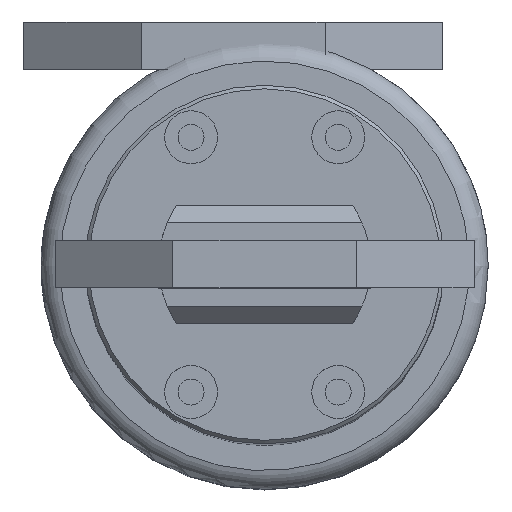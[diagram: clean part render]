
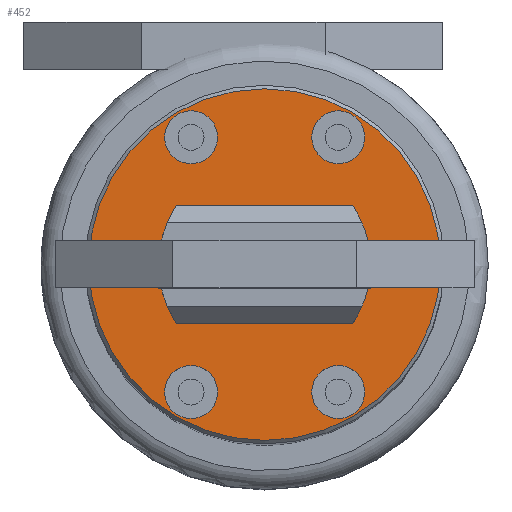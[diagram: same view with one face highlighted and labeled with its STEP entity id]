
A CAD part, top view. The second image highlights one B-rep face of the part: STEP entity #452.
In plain terms, the highlighted planar face has unit normal (0, 0, 1).
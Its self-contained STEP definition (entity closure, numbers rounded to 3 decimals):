
#452 = ADVANCED_FACE( '', ( #1231, #1232, #1233, #1234, #1235, #1236 ), #1237, .F. );
#1231 = FACE_OUTER_BOUND( '', #2437, .T. );
#1232 = FACE_BOUND( '', #2438, .T. );
#1233 = FACE_BOUND( '', #2439, .T. );
#1234 = FACE_BOUND( '', #2440, .T. );
#1235 = FACE_BOUND( '', #2441, .T. );
#1236 = FACE_BOUND( '', #2442, .T. );
#1237 = PLANE( '', #2443 );
#2437 = EDGE_LOOP( '', ( #4892 ) );
#2438 = EDGE_LOOP( '', ( #4893 ) );
#2439 = EDGE_LOOP( '', ( #4894 ) );
#2440 = EDGE_LOOP( '', ( #4895 ) );
#2441 = EDGE_LOOP( '', ( #4896 ) );
#2442 = EDGE_LOOP( '', ( #4897 ) );
#2443 = AXIS2_PLACEMENT_3D( '', #4898, #4899, #4900 );
#4892 = ORIENTED_EDGE( '', *, *, #6154, .T. );
#4893 = ORIENTED_EDGE( '', *, *, #6155, .F. );
#4894 = ORIENTED_EDGE( '', *, *, #6126, .F. );
#4895 = ORIENTED_EDGE( '', *, *, #6129, .F. );
#4896 = ORIENTED_EDGE( '', *, *, #5838, .F. );
#4897 = ORIENTED_EDGE( '', *, *, #6101, .F. );
#4898 = CARTESIAN_POINT( '', ( 20.469, -16.722, 86.008 ) );
#4899 = DIRECTION( '', ( 0., 0., -1. ) );
#4900 = DIRECTION( '', ( 0., 1., 0. ) );
#5838 = EDGE_CURVE( '', #6985, #6985, #6986, .T. );
#6101 = EDGE_CURVE( '', #7418, #7418, #7419, .T. );
#6126 = EDGE_CURVE( '', #7458, #7458, #7459, .T. );
#6129 = EDGE_CURVE( '', #7464, #7464, #7465, .T. );
#6154 = EDGE_CURVE( '', #7500, #7500, #7501, .T. );
#6155 = EDGE_CURVE( '', #7502, #7502, #7503, .T. );
#6985 = VERTEX_POINT( '', #9288 );
#6986 = CIRCLE( '', #9289, 2.25 );
#7418 = VERTEX_POINT( '', #10479 );
#7419 = CIRCLE( '', #10480, 2.25 );
#7458 = VERTEX_POINT( '', #10535 );
#7459 = CIRCLE( '', #10536, 2.25 );
#7464 = VERTEX_POINT( '', #10541 );
#7465 = CIRCLE( '', #10542, 2.25 );
#7500 = VERTEX_POINT( '', #10588 );
#7501 = CIRCLE( '', #10589, 14.94 );
#7502 = VERTEX_POINT( '', #10590 );
#7503 = CIRCLE( '', #10591, 5. );
#9288 = CARTESIAN_POINT( '', ( 24.469, -27.547, 86.008 ) );
#9289 = AXIS2_PLACEMENT_3D( '', #11240, #11241, #11242 );
#10479 = CARTESIAN_POINT( '', ( 11.969, -27.547, 86.008 ) );
#10480 = AXIS2_PLACEMENT_3D( '', #11618, #11619, #11620 );
#10535 = CARTESIAN_POINT( '', ( 16.469, -5.897, 86.008 ) );
#10536 = AXIS2_PLACEMENT_3D( '', #11661, #11662, #11663 );
#10541 = CARTESIAN_POINT( '', ( 28.969, -5.897, 86.008 ) );
#10542 = AXIS2_PLACEMENT_3D( '', #11670, #11671, #11672 );
#10588 = CARTESIAN_POINT( '', ( 35.409, -16.722, 86.008 ) );
#10589 = AXIS2_PLACEMENT_3D( '', #11723, #11724, #11725 );
#10590 = CARTESIAN_POINT( '', ( 25.469, -16.722, 86.008 ) );
#10591 = AXIS2_PLACEMENT_3D( '', #11726, #11727, #11728 );
#11240 = CARTESIAN_POINT( '', ( 26.719, -27.547, 86.008 ) );
#11241 = DIRECTION( '', ( 0., 0., 1. ) );
#11242 = DIRECTION( '', ( -1., 0., 0. ) );
#11618 = CARTESIAN_POINT( '', ( 14.219, -27.547, 86.008 ) );
#11619 = DIRECTION( '', ( 0., 0., 1. ) );
#11620 = DIRECTION( '', ( -1., 0., 0. ) );
#11661 = CARTESIAN_POINT( '', ( 14.219, -5.897, 86.008 ) );
#11662 = DIRECTION( '', ( 0., 0., 1. ) );
#11663 = DIRECTION( '', ( 1., 0., 0. ) );
#11670 = CARTESIAN_POINT( '', ( 26.719, -5.897, 86.008 ) );
#11671 = DIRECTION( '', ( 0., 0., 1. ) );
#11672 = DIRECTION( '', ( 1., 0., 0. ) );
#11723 = CARTESIAN_POINT( '', ( 20.469, -16.722, 86.008 ) );
#11724 = DIRECTION( '', ( 0., 0., 1. ) );
#11725 = DIRECTION( '', ( 1., 0., 0. ) );
#11726 = CARTESIAN_POINT( '', ( 20.469, -16.722, 86.008 ) );
#11727 = DIRECTION( '', ( 0., 0., 1. ) );
#11728 = DIRECTION( '', ( 1., 0., 0. ) );
